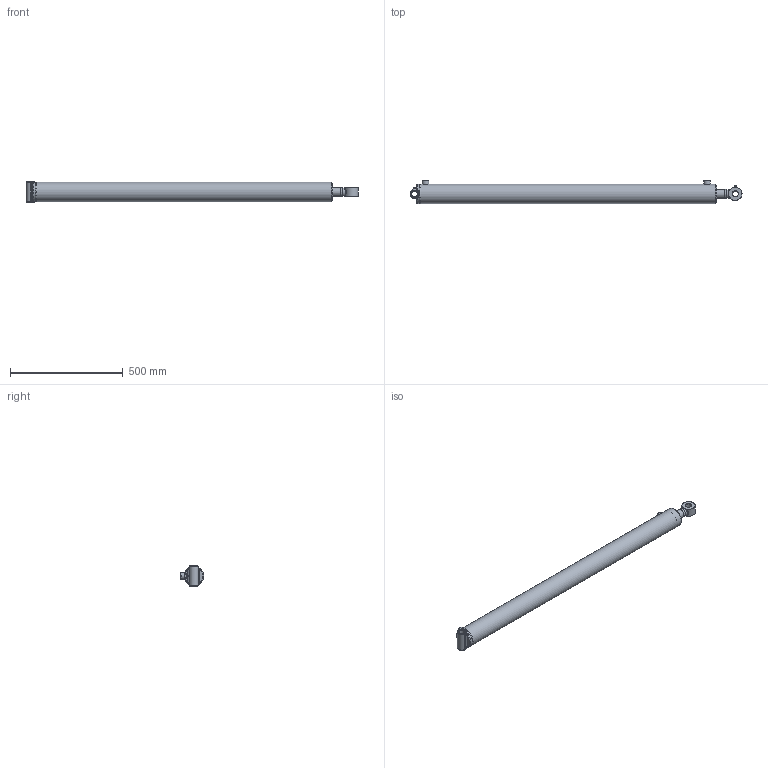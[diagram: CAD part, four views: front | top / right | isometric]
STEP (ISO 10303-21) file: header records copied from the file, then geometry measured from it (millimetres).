
FILE_DESCRIPTION(/* description */ ('Ø3.00 X 48.00 DA'),/* implementation_level */ '2;1');
FILE_NAME(/* name */ 'result.stp',/* time_stamp */ '2024-03-14T12:23:00Z',/* author */ ('AJC'),/* organization */ ('PRINCE MANUFACTURING'),/* preprocessor_version */ 'ST-DEVELOPER v20',/* originating_system */ 'Autodesk Inventor 2024',/* authorisation */ '');
FILE_SCHEMA (('AUTOMOTIVE_DESIGN { 1 0 10303 214 3 1 1 }'));
Length unit declared in the file: inch
Products named in the file (21): PC3048015A00-560XTXS; 0615-XTSF000-51507; 0515-T-51507; 161500198; 200015603; 06Weld1_C360; 0715-P-100; 220000210; 0815-G-150; 230025104; 230025004; 240000022; 240061334; 240000334; 0208A-HAW2-53813XS; 0108A-HAW2-53813; 210400772; 02Weld_C360; 240020059; 250014150; 270010020
Assembly tree (22 placements, depth 3):
  PC3048015A00-560XTXS
    0615-XTSF000-51507
      0515-T-51507
      161500198
      200015603  x2
      06Weld1_C360
    0715-P-100
    220000210
    0815-G-150
    230025104
    230025004
    240000022
    240061334
    240000334
    0208A-HAW2-53813XS
      0108A-HAW2-53813
      210400772
      02Weld_C360
    240020059
    250014150
    270010020  x2
Bounding box: 1472.44 x 104.04 x 88.9 mm (x, y, z)
Volume: 3609291.9 mm3; surface area: 985627.6 mm2
Topology: 26 solids, 26 shells, 564 faces, 1375 edges, 870 vertices
Faces by surface type: bspline 162, plane 135, torus 95, cylinder 84, cone 84, sphere 4
Full cylindrical faces by diameter (mm): 2.143 x4, 3.175 x1, 5.359 x2, 6.35 x2, 9.525 x2, 12.649 x1, 12.7 x1, 12.725 x1, 17.323 x2, 23.444 x1, 25.349 x1, 25.476 x1, 25.781 x1, 26.162 x1, 27.965 x1, 28.575 x2, 38.1 x1, 38.176 x2, 39.294 x2, 40.132 x1, 40.488 x1, 45.263 x1, 46.457 x1, 47.65 x1, 49.276 x2, 50.8 x2, 61.976 x1, 63.5 x2, 66.777 x2, 67.513 x2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
Entity records: 35075 total; most frequent: CARTESIAN_POINT 22422, ORIENTED_EDGE 2512, DIRECTION 2178, EDGE_CURVE 1256, AXIS2_PLACEMENT_3D 915, VERTEX_POINT 809, EDGE_LOOP 595, FACE_OUTER_BOUND 520
